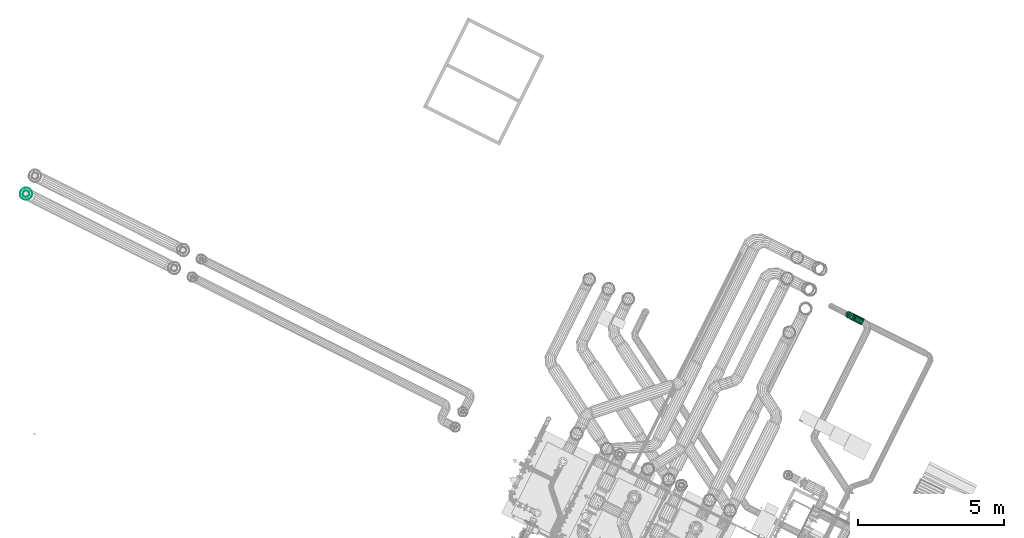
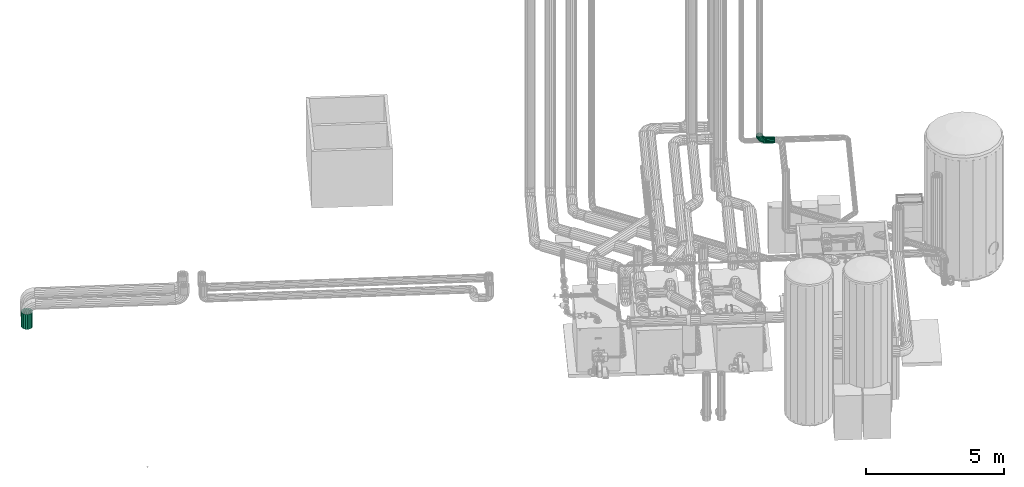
# One storey, part 165 of 206: 2 flow segments, 1 flow fitting.
"""IFC2X3 building model written with IfcOpenShell, lengths in metres."""

import ifcopenshell
import ifcopenshell.guid

model = None  # the IFC model being written
_history = None  # IfcOwnerHistory: only IFC2X3 demands one
_inside = {}  # id of a spatial element -> (the spatial element, [elements in it])
_under = {}  # id of a project, library or spatial element -> (it, [spatial elements below it])
_declared = {}  # id of a project -> (the project, [libraries it declares])
_typed = {}  # id of a type object -> (the type object, [elements of that type])
_made_of = {}  # id of a material, layer set ... -> (it, [elements and type objects made of it])


def new_model(schema):
    """Start an empty IFC model of exactly this schema.

    Asked for "IFC4X3", IfcOpenShell would pick the latest addendum, in which some entities
    have other attributes; the version numbers below select the first issue.
    IFC2X3 requires an IfcOwnerHistory on every rooted entity: one is made here for all.
    """
    global model, _history
    if schema == "IFC4X3":
        model = ifcopenshell.file(schema_version=(4, 3, 0, 0))
    else:
        model = ifcopenshell.file(schema=schema)
    _inside.clear()
    _under.clear()
    _declared.clear()
    _typed.clear()
    _made_of.clear()
    _history = None
    if model.schema == "IFC2X3":
        org = make("IfcOrganization", Name="unknown")
        user = make(
            "IfcPersonAndOrganization",
            ThePerson=make("IfcPerson", FamilyName="unknown"),
            TheOrganization=org,
        )
        app = make(
            "IfcApplication",
            ApplicationDeveloper=org,
            Version="unknown",
            ApplicationFullName="unknown",
            ApplicationIdentifier="unknown",
        )
        _history = make(
            "IfcOwnerHistory",
            OwningUser=user,
            OwningApplication=app,
            ChangeAction="ADDED",
            CreationDate=0,
        )
    return model


def make(cls, **values):
    """One entity of the class cls with the attributes given. An attribute that is None is left unset."""
    return model.create_entity(
        cls, **{name: value for name, value in values.items() if value is not None}
    )


def rooted(cls, **values):
    """An entity with a GlobalId (a new one), such as an element, a storey or a relation."""
    return make(cls, GlobalId=ifcopenshell.guid.new(), OwnerHistory=_history, **values)


def si_unit(unit_type, name, prefix=None):
    """IfcSIUnit, for example si_unit("LENGTHUNIT", "METRE", prefix="MILLI")."""
    return make("IfcSIUnit", UnitType=unit_type, Prefix=prefix, Name=name)


def derived_unit(unit_type, elements):
    """IfcDerivedUnit: a product of units, each with its exponent."""
    return make(
        "IfcDerivedUnit",
        Elements=[
            make("IfcDerivedUnitElement", Unit=unit, Exponent=power)
            for unit, power in elements
        ],
        UnitType=unit_type,
    )


def assignment(units):
    """IfcUnitAssignment: the units of a project."""
    return None if units is None else make("IfcUnitAssignment", Units=units)


def point(xyz):
    """IfcCartesianPoint."""
    return None if xyz is None else make("IfcCartesianPoint", Coordinates=xyz)


def direction(xyz):
    """IfcDirection."""
    return None if xyz is None else make("IfcDirection", DirectionRatios=xyz)


def frame(location, z_axis=None, x_axis=None):
    """IfcAxis2Placement3D, a coordinate frame: its origin and axes. An axis left out is left unset."""
    return make(
        "IfcAxis2Placement3D",
        Location=point(location),
        Axis=direction(z_axis),
        RefDirection=direction(x_axis),
    )


def origin():
    """The frame at (0, 0, 0) with its axes left unset."""
    return frame((0.0, 0.0, 0.0))


def place(relative_to, where):
    """IfcLocalPlacement: puts the frame where relative to a parent placement (None: the world)."""
    return make(
        "IfcLocalPlacement", PlacementRelTo=relative_to, RelativePlacement=where
    )


def context(
    kind, dimensions, precision=None, world=None, true_north=None, identifier=None
):
    """IfcGeometricRepresentationContext, for example the 3D "Model" context."""
    return make(
        "IfcGeometricRepresentationContext",
        ContextIdentifier=identifier,
        ContextType=kind,
        CoordinateSpaceDimension=dimensions,
        Precision=precision,
        WorldCoordinateSystem=world,
        TrueNorth=true_north,
    )


def subcontext(parent, identifier, kind, view, scale=None):
    """IfcGeometricRepresentationSubContext, for example "Body" below "Model"."""
    return make(
        "IfcGeometricRepresentationSubContext",
        ContextIdentifier=identifier,
        ContextType=kind,
        ParentContext=parent,
        TargetScale=scale,
        TargetView=view,
    )


def project(units=None, contexts=None):
    """IfcProject with its units and contexts."""
    return rooted(
        "IfcProject",
        Name="project",
        RepresentationContexts=contexts,
        UnitsInContext=assignment(units),
    )


def spatial(cls, under=None, at=None, **own):
    """A site, building, storey or space (cls), placed at a placement, below another one or the project."""
    s = rooted(cls, ObjectPlacement=at, **own)
    if under is not None:
        _under.setdefault(under.id(), (under, []))[1].append(s)
    return s


def faces_of(points, faces, orient=None, outer=None):
    """IfcFace entities. A face is a list of loops; a loop is a list of indices into points, from 0.

    orient and outer hold one flag for each loop. By default every Orientation is true, the
    first loop of a face is its IfcFaceOuterBound and the others are IfcFaceBound.
    """
    made = []
    for i, loops in enumerate(faces):
        bounds = []
        for j, loop in enumerate(loops):
            is_outer = j == 0 if outer is None else outer[i][j]
            bounds.append(
                make(
                    "IfcFaceOuterBound" if is_outer else "IfcFaceBound",
                    Bound=make("IfcPolyLoop", Polygon=[points[k] for k in loop]),
                    Orientation=True if orient is None else orient[i][j],
                )
            )
        made.append(make("IfcFace", Bounds=bounds))
    return made


def face_set(faces, orient=None, outer=None):
    """The faces of one IfcConnectedFaceSet. surface_model builds it on its shared points."""
    return ("IfcConnectedFaceSet", faces, orient, outer)


def surface_model(cls, points, shells):
    """IfcFaceBasedSurfaceModel or IfcShellBasedSurfaceModel (cls): surfaces that need not close."""
    shared = [point(p) for p in points]
    made = [make(c, CfsFaces=faces_of(shared, fs, o, b)) for c, fs, o, b in shells]
    if cls == "IfcFaceBasedSurfaceModel":
        return make(cls, FbsmFaces=made)
    return make(cls, SbsmBoundary=made)


def shape(context_of_items, identifier, shape_type, items):
    """IfcShapeRepresentation: the items that make up one representation, for example the "Body"."""
    return make(
        "IfcShapeRepresentation",
        ContextOfItems=context_of_items,
        RepresentationIdentifier=identifier,
        RepresentationType=shape_type,
        Items=items,
    )


def source(mapping_origin, context_of_items, identifier, shape_type, items):
    """IfcRepresentationMap: a shape defined once, which mapped items show again and again."""
    return make(
        "IfcRepresentationMap",
        MappingOrigin=mapping_origin,
        MappedRepresentation=shape(context_of_items, identifier, shape_type, items),
    )


def transform(
    local_origin,
    x_axis=None,
    y_axis=None,
    z_axis=None,
    scale=None,
    scale2=None,
    scale3=None,
    uniform=True,
):
    """IfcCartesianTransformationOperator3D, or its non-uniform kind. x_axis, y_axis, z_axis: its Axis1, 2, 3."""
    if uniform:
        return make(
            "IfcCartesianTransformationOperator3D",
            Axis1=direction(x_axis),
            Axis2=direction(y_axis),
            LocalOrigin=point(local_origin),
            Scale=scale,
            Axis3=direction(z_axis),
        )
    return make(
        "IfcCartesianTransformationOperator3DnonUniform",
        Axis1=direction(x_axis),
        Axis2=direction(y_axis),
        LocalOrigin=point(local_origin),
        Scale=scale,
        Axis3=direction(z_axis),
        Scale2=scale2,
        Scale3=scale3,
    )


def mapped(mapping_source, mapping_target):
    """IfcMappedItem: shows the shape of a source again, moved by a transform."""
    return make(
        "IfcMappedItem", MappingSource=mapping_source, MappingTarget=mapping_target
    )


def material(Name=None, Category=None):
    """IfcMaterial."""
    return make("IfcMaterial", Name=Name, Category=Category)


def made_of(thing, what):
    """Note that an element or type object is made of a material, layer set ...; save() writes the relation."""
    if what is not None:
        _made_of.setdefault(what.id(), (what, []))[1].append(thing)
    return thing


def type_object(cls, material=None, **own):
    """A type object (cls), such as IfcWallType, which elements share."""
    return made_of(rooted(cls, **own), material)


def type_shapes(of_type, sources):
    """Give a type object the sources (RepresentationMaps) that its elements show as mapped items."""
    of_type.RepresentationMaps = sources


def element(
    cls,
    number,
    at=None,
    inside=None,
    cuts=None,
    type_object=None,
    material=None,
    context=None,
    identifier="Body",
    shape_type=None,
    held_by="IfcProductDefinitionShape",
    body=None,
    shapes=None,
    **own,
):
    """One element of the class cls, such as IfcWall. Its Tag is "e" and its number.

    at: its placement. inside: the storey or other place that contains it. cuts: it is an
    opening in that element (IfcRelVoidsElement). A single representation is given by context,
    identifier, shape_type and body (its items); several are given by shapes. held_by: the class
    of the entity that holds the representations. save() writes the other relations.
    """
    e = rooted(cls, Tag="e%d" % number, ObjectPlacement=at, **own)
    if body is not None:
        shapes = [shape(context, identifier, shape_type, body)]
    if shapes is not None:
        e.Representation = make(held_by, Representations=shapes)
    if inside is not None:
        _inside.setdefault(inside.id(), (inside, []))[1].append(e)
    if cuts is not None:
        rooted(
            "IfcRelVoidsElement", RelatingBuildingElement=cuts, RelatedOpeningElement=e
        )
    if type_object is not None:
        _typed.setdefault(type_object.id(), (type_object, []))[1].append(e)
    return made_of(e, material)


def aggregate(whole, parts):
    """IfcRelAggregates: a whole, such as a stair, and the parts it consists of."""
    return rooted("IfcRelAggregates", RelatingObject=whole, RelatedObjects=parts)


def save(model, path):
    """Write the relations noted so far, then the file.

    IfcRelAggregates (storeys below a building ...), IfcRelContainedInSpatialStructure (elements
    in a storey), IfcRelDefinesByType, IfcRelAssociatesMaterial and IfcRelDeclares: one each for
    every whole, place, type object, material and project.
    """
    for whole, parts in _under.values():
        aggregate(whole, parts)
    for where, things in _inside.values():
        rooted(
            "IfcRelContainedInSpatialStructure",
            RelatedElements=things,
            RelatingStructure=where,
        )
    for kind, things in _typed.values():
        rooted("IfcRelDefinesByType", RelatedObjects=things, RelatingType=kind)
    for what, things in _made_of.values():
        rooted("IfcRelAssociatesMaterial", RelatedObjects=things, RelatingMaterial=what)
    for by, libraries in _declared.values():
        rooted("IfcRelDeclares", RelatingContext=by, RelatedDefinitions=libraries)
    model.write(path)


model = new_model("IFC2X3")

# Units and contexts
model_context = context("Model", 3, precision=5.2338327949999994e-05, world=origin(), true_north=direction((0.0, 1.0)))
body_context = subcontext(model_context, "Body", "Model", "MODEL_VIEW")
ifc_project = project(units=[si_unit("LENGTHUNIT", "METRE"), si_unit("AREAUNIT", "SQUARE_METRE"), si_unit("VOLUMEUNIT", "CUBIC_METRE"), si_unit("MASSUNIT", "GRAM", prefix="KILO"), si_unit("PLANEANGLEUNIT", "RADIAN"), derived_unit("THERMALTRANSMITTANCEUNIT", [(si_unit("MASSUNIT", "GRAM", prefix="KILO"), 1), (si_unit("THERMODYNAMICTEMPERATUREUNIT", "KELVIN"), -1), (si_unit("TIMEUNIT", "SECOND"), -3)])], contexts=[model_context])

# Site, building, storey
site_placement = place(None, frame((0.0, 0.0, 0.0), z_axis=(0.0, 0.0, 1.0), x_axis=(0.8939966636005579, -0.4480736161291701, 0.0)))
site = spatial("IfcSite", under=ifc_project, at=site_placement, Name="Default", CompositionType="ELEMENT")
building_placement = place(site_placement, origin())
building = spatial("IfcBuilding", under=site, at=building_placement, CompositionType="ELEMENT")
storey_placement = place(building_placement, origin())
storey = spatial("IfcBuildingStorey", under=building, at=storey_placement, Name="Erdgeschoss", CompositionType="ELEMENT", Elevation=0.0)

# Flow segment
ifc_material_1 = material(Name="IfcSurfaceStyle #9317")
distribution_element_type_1 = type_object("IfcDistributionElementType", Name="Stahlrohr nach DIN 2448 277462:Stahlrohr nach DIN 2448 277462", material=ifc_material_1)
shared_shape_1 = source(origin(), body_context, "Body", "SurfaceModel", [
    surface_model("IfcFaceBasedSurfaceModel", [(0.9162699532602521, 7.217658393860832, 2.012798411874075), (0.8788016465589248, 7.224265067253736, 2.012798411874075), (0.8788016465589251, 7.224265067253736, 1.35), (0.916269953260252, 7.217658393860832, 1.35), (0.8458525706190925, 7.243288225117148, 2.012798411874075), (0.8458525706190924, 7.243288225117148, 1.35), (0.8213968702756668, 7.272433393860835, 2.012798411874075), (0.8213968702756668, 7.272433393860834, 1.35), (0.8083842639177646, 7.30818523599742, 2.012798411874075), (0.8083842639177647, 7.3081852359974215, 1.35), (0.8083842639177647, 7.346231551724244, 2.012798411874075), (0.8083842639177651, 7.346231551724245, 1.35), (0.8213968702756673, 7.381983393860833, 2.012798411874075), (0.8213968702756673, 7.381983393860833, 1.35), (0.8458525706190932, 7.411128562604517, 2.012798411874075), (0.8458525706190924, 7.411128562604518, 1.35), (0.8788016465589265, 7.430151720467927, 2.012798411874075), (0.8788016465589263, 7.430151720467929, 1.35), (0.9162699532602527, 7.436758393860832, 2.012798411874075), (0.9162699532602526, 7.436758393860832, 1.35), (0.9537382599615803, 7.4301517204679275, 2.012798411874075), (0.9537382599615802, 7.4301517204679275, 1.35), (0.9866873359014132, 7.411128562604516, 2.012798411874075), (0.9866873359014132, 7.411128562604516, 1.35), (1.0111430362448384, 7.381983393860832, 2.012798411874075), (1.0111430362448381, 7.381983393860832, 1.35), (1.0241556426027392, 7.346231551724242, 2.012798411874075), (1.0241556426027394, 7.3462315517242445, 1.35), (1.0241556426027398, 7.30818523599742, 2.012798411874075), (1.02415564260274, 7.308185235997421, 1.35), (1.0111430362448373, 7.272433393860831, 2.012798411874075), (1.011143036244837, 7.272433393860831, 1.35), (0.9866873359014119, 7.243288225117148, 2.012798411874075), (0.9866873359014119, 7.243288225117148, 1.35), (0.9537382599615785, 7.224265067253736, 2.012798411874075), (0.9537382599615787, 7.224265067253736, 1.35), (0.9162699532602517, 7.1176583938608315, 2.012798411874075), (0.8445996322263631, 7.130295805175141, 2.012798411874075), (0.8445996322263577, 7.130295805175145, 1.35), (0.9162699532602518, 7.117658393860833, 1.35), (0.7815738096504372, 7.16668378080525, 2.012798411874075), (0.7815738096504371, 7.1666837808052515, 1.35), (0.7347943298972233, 7.222433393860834, 2.012798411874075), (0.7347943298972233, 7.222433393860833, 1.35), (0.7099034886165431, 7.290820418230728, 2.012798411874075), (0.7099034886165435, 7.290820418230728, 1.35), (0.7099034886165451, 7.363596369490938, 2.012798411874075), (0.7099034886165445, 7.363596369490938, 1.35), (0.7347943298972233, 7.4319833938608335, 2.012798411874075), (0.7347943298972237, 7.4319833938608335, 1.35), (0.781573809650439, 7.487733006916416, 2.012798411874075), (0.7815738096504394, 7.487733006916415, 1.35), (0.84459963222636, 7.52412098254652, 2.012798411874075), (0.8445996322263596, 7.52412098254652, 1.35), (0.916269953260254, 7.53675839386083, 2.012798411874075), (0.9162699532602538, 7.536758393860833, 1.35), (0.9879402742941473, 7.52412098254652, 2.012798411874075), (0.9879402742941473, 7.52412098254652, 1.35), (1.0509660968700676, 7.487733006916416, 2.012798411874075), (1.0509660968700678, 7.487733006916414, 1.35), (1.0977455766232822, 7.43198339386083, 2.012798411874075), (1.0977455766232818, 7.431983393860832, 1.35), (1.1226364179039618, 7.363596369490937, 2.012798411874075), (1.1226364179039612, 7.363596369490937, 1.35), (1.1226364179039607, 7.290820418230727, 2.012798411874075), (1.1226364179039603, 7.290820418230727, 1.35), (1.0977455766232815, 7.2224333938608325, 2.012798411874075), (1.097745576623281, 7.2224333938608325, 1.35), (1.0509660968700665, 7.16668378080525, 2.012798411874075), (1.050966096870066, 7.16668378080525, 1.35), (0.987940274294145, 7.130295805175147, 2.012798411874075), (0.9879402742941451, 7.130295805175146, 1.35)], [face_set([[[0, 1, 2, 3]], [[1, 4, 5, 2]], [[4, 6, 7, 5]], [[6, 8, 9, 7]], [[8, 10, 11, 9]], [[10, 12, 13, 11]], [[12, 14, 15, 13]], [[14, 16, 17, 15]], [[16, 18, 19, 17]], [[18, 20, 21, 19]], [[20, 22, 23, 21]], [[22, 24, 25, 23]], [[24, 26, 27, 25]], [[26, 28, 29, 27]], [[28, 30, 31, 29]], [[30, 32, 33, 31]], [[32, 34, 35, 33]], [[34, 0, 3, 35]], [[36, 37, 38, 39]], [[37, 40, 41, 38]], [[40, 42, 43, 41]], [[42, 44, 45, 43]], [[44, 46, 47, 45]], [[46, 48, 49, 47]], [[48, 50, 51, 49]], [[50, 52, 53, 51]], [[52, 54, 55, 53]], [[54, 56, 57, 55]], [[56, 58, 59, 57]], [[58, 60, 61, 59]], [[60, 62, 63, 61]], [[62, 64, 65, 63]], [[64, 66, 67, 65]], [[66, 68, 69, 67]], [[68, 70, 71, 69]], [[70, 36, 39, 71]]])]),
])
type_shapes(distribution_element_type_1, [shared_shape_1])
flow_segment_1_placement = place(storey_placement, origin())
element("IfcFlowSegment", 1, at=flow_segment_1_placement, inside=storey, type_object=distribution_element_type_1, material=ifc_material_1, Name="Stahlrohr nach DIN 2448", ObjectType="Stahlrohr nach DIN 2448", context=body_context, shape_type="MappedRepresentation", body=[
    mapped(shared_shape_1, transform((0.0, 0.0, 0.0), scale=1.0)),
])

# Flow fitting
ifc_material_2 = material(Name="IfcSurfaceStyle #251447")
distribution_element_type_2 = type_object("IfcDistributionElementType", Name="Segmentbogen 4 teilig 293653:Segmentbogen 4 teilig 293653", material=ifc_material_2)
shared_shape_2 = source(origin(), body_context, "Body", "SurfaceModel", [
    surface_model("IfcFaceBasedSurfaceModel", [(28.184101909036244, 16.11211232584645, 2.200000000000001), (28.184101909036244, 16.119650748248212, 2.242752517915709), (28.12857011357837, 16.119650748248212, 2.242752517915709), (28.117114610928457, 16.11211232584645, 2.200000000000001), (28.184101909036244, 16.141356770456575, 2.280348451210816), (28.13864391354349, 16.141356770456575, 2.280348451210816), (28.184101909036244, 16.174612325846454, 2.308253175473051), (28.146120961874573, 16.174612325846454, 2.308253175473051), (28.184101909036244, 16.215406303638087, 2.3231009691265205), (28.150099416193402, 16.215406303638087, 2.3231009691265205), (28.184101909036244, 16.258818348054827, 2.323100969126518), (28.150099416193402, 16.258818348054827, 2.323100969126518), (28.184101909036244, 16.299612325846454, 2.3082531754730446), (28.146120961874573, 16.299612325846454, 2.3082531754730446), (28.184101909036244, 16.33286788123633, 2.2803484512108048), (28.13864391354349, 16.33286788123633, 2.2803484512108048), (28.184101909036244, 16.3545739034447, 2.242752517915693), (28.12857011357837, 16.3545739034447, 2.242752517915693), (28.184101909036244, 16.362112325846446, 2.1999999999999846), (28.117114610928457, 16.362112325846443, 2.199999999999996), (28.184101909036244, 16.35457390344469, 2.157247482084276), (28.10565910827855, 16.35457390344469, 2.157247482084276), (28.184101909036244, 16.332867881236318, 2.119651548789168), (28.095585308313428, 16.332867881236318, 2.119651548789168), (28.184101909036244, 16.299612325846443, 2.091746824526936), (28.088108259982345, 16.299612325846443, 2.091746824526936), (28.184101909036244, 16.25881834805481, 2.076899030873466), (28.08412980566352, 16.25881834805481, 2.076899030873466), (28.184101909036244, 16.215406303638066, 2.0768990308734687), (28.08412980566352, 16.215406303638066, 2.0768990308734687), (28.184101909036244, 16.174612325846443, 2.0917468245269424), (28.088108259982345, 16.174612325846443, 2.0917468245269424), (28.184101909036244, 16.14135677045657, 2.119651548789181), (28.095585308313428, 16.14135677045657, 2.119651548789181), (28.184101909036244, 16.1196507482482, 2.15724748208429), (28.10565910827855, 16.1196507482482, 2.15724748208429), (28.032386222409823, 16.119650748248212, 2.2982843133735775), (28.00108920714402, 16.11211232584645, 2.266987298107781), (28.059908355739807, 16.141356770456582, 2.3258064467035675), (28.080336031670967, 16.174612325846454, 2.3462341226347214), (28.091205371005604, 16.215406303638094, 2.35710346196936), (28.091205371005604, 16.25881834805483, 2.3571034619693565), (28.080336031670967, 16.299612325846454, 2.346234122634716), (28.059908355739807, 16.332867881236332, 2.3258064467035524), (28.032386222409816, 16.354573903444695, 2.2982843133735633), (28.00108920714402, 16.36211232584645, 2.2669872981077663), (27.969792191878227, 16.35457390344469, 2.235690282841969), (27.94227005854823, 16.33286788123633, 2.20816814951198), (27.92184238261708, 16.29961232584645, 2.1877404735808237), (27.91097304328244, 16.25881834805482, 2.1768711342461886), (27.91097304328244, 16.21540630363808, 2.17687113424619), (27.92184238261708, 16.174612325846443, 2.1877404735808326), (27.94227005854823, 16.141356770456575, 2.208168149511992), (27.969792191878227, 16.11965074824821, 2.2356902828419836), (27.97685442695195, 16.119650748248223, 2.39446820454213), (27.934101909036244, 16.112112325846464, 2.3830127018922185), (28.014450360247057, 16.14135677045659, 2.404542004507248), (28.042355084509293, 16.174612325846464, 2.412019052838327), (28.057202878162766, 16.21540630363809, 2.4159975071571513), (28.057202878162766, 16.258818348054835, 2.415997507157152), (28.042355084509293, 16.299612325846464, 2.412019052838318), (28.014450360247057, 16.332867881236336, 2.404542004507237), (27.97685442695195, 16.354573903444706, 2.3944682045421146), (27.934101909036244, 16.36211232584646, 2.3830127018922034), (27.891349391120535, 16.354573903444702, 2.3715571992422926), (27.853753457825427, 16.332867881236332, 2.3614833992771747), (27.825848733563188, 16.299612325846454, 2.3540063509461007), (27.81100093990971, 16.25881834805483, 2.350027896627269), (27.811000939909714, 16.21540630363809, 2.350027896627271), (27.82584873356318, 16.17461232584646, 2.3540063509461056), (27.853753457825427, 16.141356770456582, 2.3614833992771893), (27.891349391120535, 16.11965074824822, 2.371557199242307), (27.97685442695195, 16.119650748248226, 2.4499999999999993), (27.934101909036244, 16.112112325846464, 2.4499999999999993), (28.014450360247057, 16.141356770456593, 2.449999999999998), (28.042355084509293, 16.174612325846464, 2.4499999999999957), (28.057202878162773, 16.2154063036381, 2.449999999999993), (28.057202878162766, 16.258818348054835, 2.449999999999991), (28.042355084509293, 16.299612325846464, 2.4499999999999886), (28.014450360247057, 16.33286788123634, 2.4499999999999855), (27.97685442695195, 16.354573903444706, 2.4499999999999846), (27.934101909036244, 16.362112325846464, 2.4499999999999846), (27.891349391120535, 16.354573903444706, 2.4499999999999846), (27.853753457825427, 16.33286788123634, 2.4499999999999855), (27.825848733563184, 16.299612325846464, 2.4499999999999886), (27.81100093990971, 16.258818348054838, 2.449999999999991), (27.811000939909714, 16.215406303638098, 2.449999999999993), (27.825848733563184, 16.174612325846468, 2.4499999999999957), (27.853753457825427, 16.14135677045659, 2.449999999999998), (27.891349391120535, 16.119650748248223, 2.4499999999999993)], [face_set([[[0, 1, 2, 3]], [[1, 4, 5, 2]], [[4, 6, 7, 5]], [[6, 8, 9, 7]], [[8, 10, 11, 9]], [[10, 12, 13, 11]], [[12, 14, 15, 13]], [[14, 16, 17, 15]], [[16, 18, 19, 17]], [[18, 20, 21, 19]], [[20, 22, 23, 21]], [[22, 24, 25, 23]], [[24, 26, 27, 25]], [[26, 28, 29, 27]], [[28, 30, 31, 29]], [[30, 32, 33, 31]], [[32, 34, 35, 33]], [[34, 0, 3, 35]], [[3, 2, 36, 37]], [[2, 5, 38, 36]], [[5, 7, 39, 38]], [[7, 9, 40, 39]], [[9, 11, 41, 40]], [[11, 13, 42, 41]], [[13, 15, 43, 42]], [[15, 17, 44, 43]], [[17, 19, 45, 44]], [[19, 21, 46, 45]], [[21, 23, 47, 46]], [[23, 25, 48, 47]], [[25, 27, 49, 48]], [[27, 29, 50, 49]], [[29, 31, 51, 50]], [[31, 33, 52, 51]], [[33, 35, 53, 52]], [[35, 3, 37, 53]], [[37, 36, 54, 55]], [[36, 38, 56, 54]], [[38, 39, 57, 56]], [[39, 40, 58, 57]], [[40, 41, 59, 58]], [[41, 42, 60, 59]], [[42, 43, 61, 60]], [[43, 44, 62, 61]], [[44, 45, 63, 62]], [[45, 46, 64, 63]], [[46, 47, 65, 64]], [[47, 48, 66, 65]], [[48, 49, 67, 66]], [[49, 50, 68, 67]], [[50, 51, 69, 68]], [[51, 52, 70, 69]], [[52, 53, 71, 70]], [[53, 37, 55, 71]], [[55, 54, 72, 73]], [[54, 56, 74, 72]], [[56, 57, 75, 74]], [[57, 58, 76, 75]], [[58, 59, 77, 76]], [[59, 60, 78, 77]], [[60, 61, 79, 78]], [[61, 62, 80, 79]], [[62, 63, 81, 80]], [[63, 64, 82, 81]], [[64, 65, 83, 82]], [[65, 66, 84, 83]], [[66, 67, 85, 84]], [[67, 68, 86, 85]], [[68, 69, 87, 86]], [[69, 70, 88, 87]], [[70, 71, 89, 88]], [[71, 55, 73, 89]]])]),
])
type_shapes(distribution_element_type_2, [shared_shape_2])
flow_fitting_placement = place(storey_placement, origin())
element("IfcFlowFitting", 2, at=flow_fitting_placement, inside=storey, type_object=distribution_element_type_2, material=ifc_material_2, Name="Segmentbogen 4 teilig", ObjectType="Segmentbogen 4 teilig", context=body_context, shape_type="MappedRepresentation", body=[
    mapped(shared_shape_2, transform((0.0, 0.0, 0.0), scale=1.0)),
])

# Flow segment
distribution_element_type_3 = type_object("IfcDistributionElementType", Name="Wickelfalzrohr 294435:Wickelfalzrohr 294435", material=ifc_material_2)
shared_shape_3 = source(origin(), body_context, "Body", "SurfaceModel", [
    surface_model("IfcFaceBasedSurfaceModel", [(28.48772098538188, 16.237112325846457, 2.324999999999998), (28.48772098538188, 16.27986484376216, 2.317461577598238), (28.184101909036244, 16.27986484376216, 2.317461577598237), (28.184101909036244, 16.237112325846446, 2.3249999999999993), (28.48772098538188, 16.31746077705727, 2.295755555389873), (28.184101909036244, 16.317460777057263, 2.2957555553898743), (28.48772098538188, 16.345365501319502, 2.2624999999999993), (28.184101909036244, 16.3453655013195, 2.262500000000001), (28.48772098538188, 16.360213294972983, 2.2217060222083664), (28.184101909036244, 16.36021329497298, 2.221706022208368), (28.48772098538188, 16.360213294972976, 2.1782939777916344), (28.184101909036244, 16.360213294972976, 2.1782939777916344), (28.48772098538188, 16.345365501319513, 2.1374999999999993), (28.184101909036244, 16.34536550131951, 2.1375000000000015), (28.48772098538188, 16.31746077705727, 2.104244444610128), (28.184101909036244, 16.317460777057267, 2.104244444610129), (28.48772098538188, 16.279864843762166, 2.0825384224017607), (28.184101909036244, 16.279864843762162, 2.0825384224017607), (28.48772098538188, 16.237112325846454, 2.0749999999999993), (28.184101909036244, 16.237112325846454, 2.0749999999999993), (28.48772098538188, 16.194359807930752, 2.082538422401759), (28.184101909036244, 16.194359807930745, 2.08253842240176), (28.48772098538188, 16.156763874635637, 2.104244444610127), (28.184101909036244, 16.156763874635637, 2.104244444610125), (28.48772098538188, 16.128859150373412, 2.1374999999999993), (28.184101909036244, 16.128859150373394, 2.1374999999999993), (28.48772098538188, 16.114011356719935, 2.178293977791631), (28.184101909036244, 16.114011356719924, 2.17829397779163), (28.48772098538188, 16.114011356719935, 2.2217060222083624), (28.184101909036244, 16.114011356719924, 2.2217060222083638), (28.48772098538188, 16.1288591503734, 2.262499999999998), (28.184101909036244, 16.128859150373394, 2.2624999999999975), (28.48772098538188, 16.156763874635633, 2.2957555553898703), (28.184101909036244, 16.156763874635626, 2.2957555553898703), (28.48772098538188, 16.194359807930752, 2.317461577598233), (28.184101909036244, 16.194359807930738, 2.3174615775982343)], [face_set([[[0, 1, 2, 3]], [[1, 4, 5, 2]], [[4, 6, 7, 5]], [[6, 8, 9, 7]], [[8, 10, 11, 9]], [[10, 12, 13, 11]], [[12, 14, 15, 13]], [[14, 16, 17, 15]], [[16, 18, 19, 17]], [[18, 20, 21, 19]], [[20, 22, 23, 21]], [[22, 24, 25, 23]], [[24, 26, 27, 25]], [[26, 28, 29, 27]], [[28, 30, 31, 29]], [[30, 32, 33, 31]], [[32, 34, 35, 33]], [[34, 0, 3, 35]]])]),
])
type_shapes(distribution_element_type_3, [shared_shape_3])
flow_segment_2_placement = place(storey_placement, origin())
element("IfcFlowSegment", 3, at=flow_segment_2_placement, inside=storey, type_object=distribution_element_type_3, material=ifc_material_2, Name="Wickelfalzrohr", ObjectType="Wickelfalzrohr", context=body_context, shape_type="MappedRepresentation", body=[
    mapped(shared_shape_3, transform((0.0, 0.0, 0.0), scale=1.0)),
])

save(model, "model.ifc")
